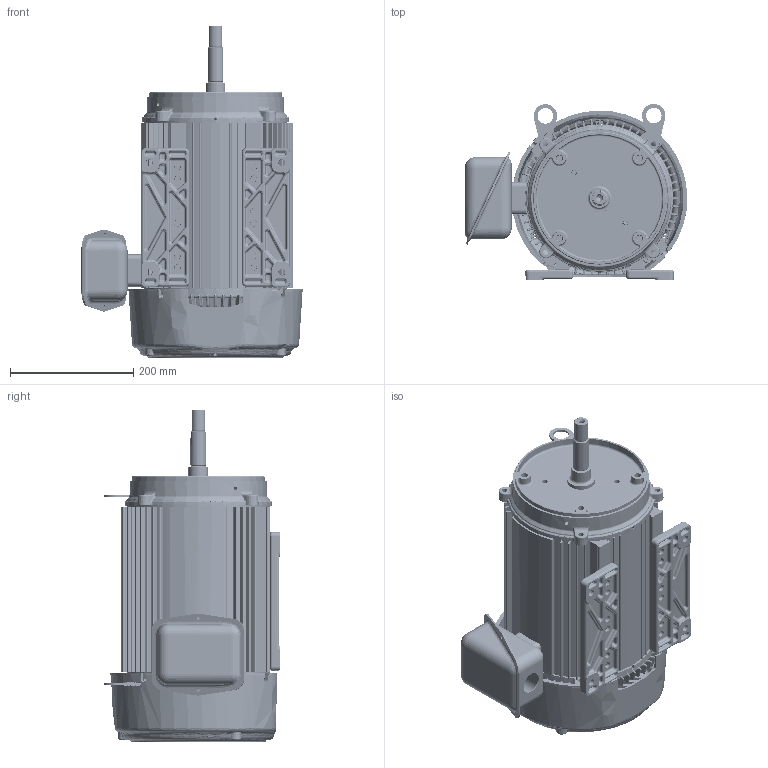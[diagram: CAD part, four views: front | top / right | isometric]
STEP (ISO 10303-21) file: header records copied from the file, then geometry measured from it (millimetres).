
FILE_DESCRIPTION((''),'2;1');
FILE_NAME('CCP_CFACE_ASM','2016-02-26T',('emd2341'),('Nidec Motor Corporation'),'PRO/ENGINEER BY PARAMETRIC TECHNOLOGY CORPORATION, 2013150','PRO/ENGINEER BY PARAMETRIC TECHNOLOGY CORPORATION, 2013150','');
FILE_SCHEMA(('CONFIG_CONTROL_DESIGN'));
Length unit declared in the file: inch
Products named in the file (19): 0392317_AF0; 0361369; 0390920; 0375083-BKT_AF1; 0375084_ASM; 0380748-BKT_AF0; 0362224_AF0; 0380749_ASM; 0362111; 0172877; 0364720; 0010219; 0140685; 0364950; 0147232; 0376890; 0398344; 0398343; CCP_CFACE_ASM
Assembly tree (20 placements, depth 3):
  CCP_CFACE_ASM
    0392317_AF0
    0361369  x2
    0390920
    0375084_ASM
      0375083-BKT_AF1
    0380749_ASM
      0380748-BKT_AF0
      0362224_AF0
    0362111
    0172877
    0364720
    0010219
    0140685
    0364950
    0147232
    0376890  x2
    0398344
    0398343
Bounding box: 362.3 x 285.87 x 539.82 mm (x, y, z)
Volume: 4257292.6 mm3; surface area: 1670640.8 mm2
Topology: 22 solids, 22 shells, 6613 faces, 15755 edges, 9160 vertices
Faces by surface type: bspline 2742, cylinder 1461, plane 1229, torus 513, cone 331, sphere 313, extrusion 24
Entity records: 314201 total; most frequent: CARTESIAN_POINT 191583, ORIENTED_EDGE 29250, DIRECTION 20829, EDGE_CURVE 14625, AXIS2_PLACEMENT_3D 8769, VERTEX_POINT 8524, EDGE_LOOP 6319, B_SPLINE_CURVE_WITH_KNOTS 6146
